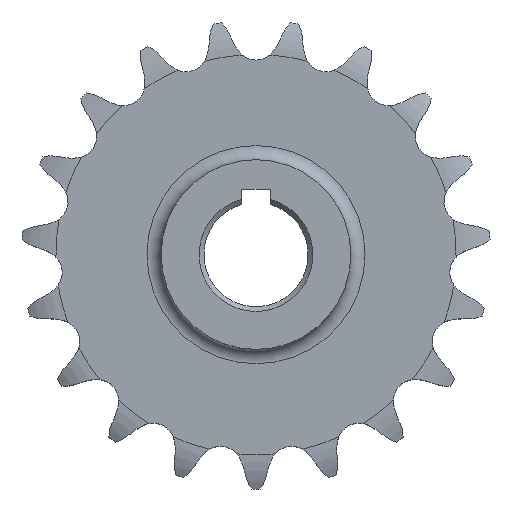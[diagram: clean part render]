
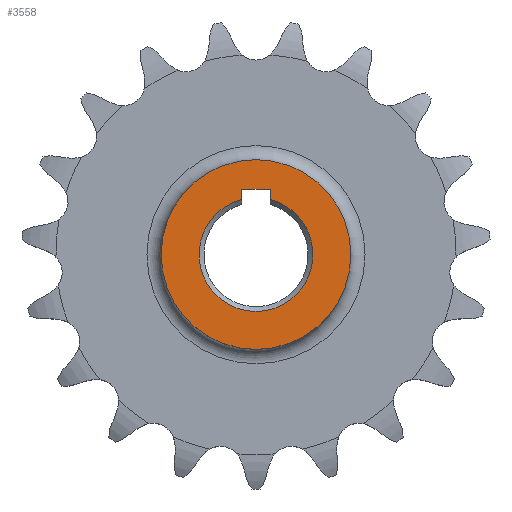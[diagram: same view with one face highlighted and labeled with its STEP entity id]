
A CAD part, top view. The second image highlights one B-rep face of the part: STEP entity #3558.
In plain terms, the highlighted planar face has unit normal (0, 0, 1).
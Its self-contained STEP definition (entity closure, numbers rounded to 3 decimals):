
#475=FACE_BOUND('',#1054,.T.);
#481=LINE('',#5016,#644);
#483=LINE('',#5030,#646);
#484=LINE('',#5031,#647);
#644=VECTOR('',#4193,10.);
#646=VECTOR('',#4205,10.);
#647=VECTOR('',#4206,10.);
#805=PLANE('',#3824);
#851=FACE_OUTER_BOUND('',#1053,.T.);
#1053=EDGE_LOOP('',(#2422));
#1054=EDGE_LOOP('',(#2423,#2424,#2425,#2426));
#1292=CIRCLE('',#3822,12.);
#1294=CIRCLE('',#3825,20.);
#1423=VERTEX_POINT('',#5011);
#1424=VERTEX_POINT('',#5015);
#1426=VERTEX_POINT('',#5020);
#1427=VERTEX_POINT('',#5027);
#1428=VERTEX_POINT('',#5029);
#1820=EDGE_CURVE('',#1424,#1423,#481,.T.);
#1823=EDGE_CURVE('',#1426,#1423,#1292,.T.);
#1825=EDGE_CURVE('',#1427,#1427,#1294,.T.);
#1826=EDGE_CURVE('',#1426,#1428,#483,.T.);
#1827=EDGE_CURVE('',#1428,#1424,#484,.T.);
#2422=ORIENTED_EDGE('',*,*,#1825,.T.);
#2423=ORIENTED_EDGE('',*,*,#1823,.F.);
#2424=ORIENTED_EDGE('',*,*,#1826,.T.);
#2425=ORIENTED_EDGE('',*,*,#1827,.T.);
#2426=ORIENTED_EDGE('',*,*,#1820,.T.);
#3558=ADVANCED_FACE('',(#851,#475),#805,.F.);
#3822=AXIS2_PLACEMENT_3D('',#5024,#4197,#4198);
#3824=AXIS2_PLACEMENT_3D('',#5026,#4201,#4202);
#3825=AXIS2_PLACEMENT_3D('',#5028,#4203,#4204);
#4193=DIRECTION('',(0.,-1.,0.));
#4197=DIRECTION('center_axis',(0.,0.,1.));
#4198=DIRECTION('ref_axis',(1.,0.,0.));
#4201=DIRECTION('center_axis',(0.,0.,-1.));
#4202=DIRECTION('ref_axis',(-1.,0.,0.));
#4203=DIRECTION('center_axis',(0.,0.,1.));
#4204=DIRECTION('ref_axis',(-1.,0.,0.));
#4205=DIRECTION('',(0.,1.,0.));
#4206=DIRECTION('',(1.,0.,0.));
#5011=CARTESIAN_POINT('',(3.,11.619,18.35));
#5015=CARTESIAN_POINT('',(3.,13.8,18.35));
#5016=CARTESIAN_POINT('',(3.,5.292,18.35));
#5020=CARTESIAN_POINT('',(-3.,11.619,18.35));
#5024=CARTESIAN_POINT('Origin',(0.,0.,18.35));
#5026=CARTESIAN_POINT('Origin',(0.,0.,18.35));
#5027=CARTESIAN_POINT('',(20.,0.,18.35));
#5028=CARTESIAN_POINT('Origin',(0.,0.,18.35));
#5029=CARTESIAN_POINT('',(-3.,13.8,18.35));
#5030=CARTESIAN_POINT('',(-3.,6.9,18.35));
#5031=CARTESIAN_POINT('',(1.5,13.8,18.35));
